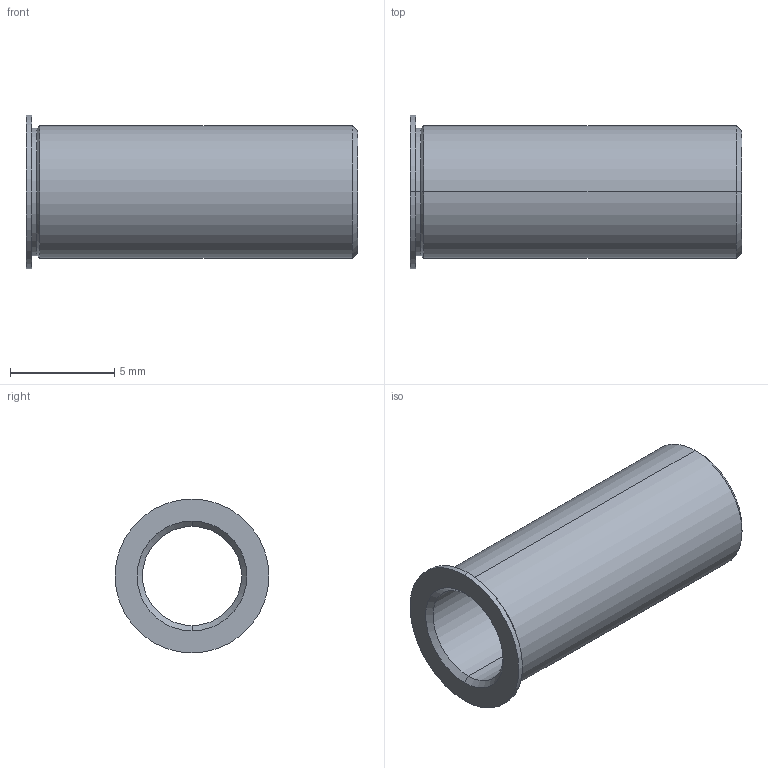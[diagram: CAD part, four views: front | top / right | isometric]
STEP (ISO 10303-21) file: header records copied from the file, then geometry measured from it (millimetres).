
FILE_DESCRIPTION (( 'STEP AP214' ), '1' );
FILE_NAME ('TB187-100-625-S.STEP', '2013-08-12T19:21:39', ( 'workpc' ), ( 'Microsoft' ), 'SwSTEP 2.0', 'SolidWorks 2013', '' );
FILE_SCHEMA (( 'AUTOMOTIVE_DESIGN' ));
Length unit declared in the file: inch
Products named in the file (1): TB187-100-625-S
Bounding box: 15.88 x 7.37 x 7.37 mm (x, y, z)
Volume: 223.8 mm3; surface area: 600.7 mm2
Topology: 1 solids, 1 shells, 19 faces, 38 edges, 22 vertices
Faces by surface type: cone 8, cylinder 8, plane 3
Entity records: 564 total; most frequent: DIRECTION 100, CARTESIAN_POINT 80, ORIENTED_EDGE 76, AXIS2_PLACEMENT_3D 42, EDGE_CURVE 38, CIRCLE 22, EDGE_LOOP 22, VERTEX_POINT 22
